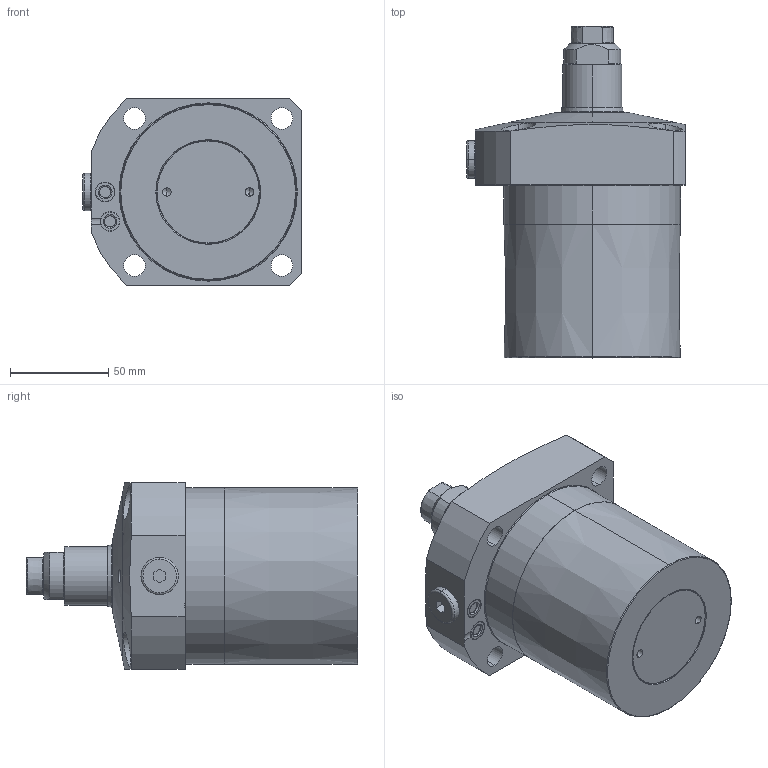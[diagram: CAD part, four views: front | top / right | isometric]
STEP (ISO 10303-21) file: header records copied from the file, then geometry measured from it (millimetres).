
FILE_DESCRIPTION(/* description */ (''),/* implementation_level */ '2;1');
FILE_NAME(/* name */ 'KFSS90.stp',/* time_stamp */ '2026-02-06T09:33:47+08:00',/* author */ (''),/* organization */ (''),/* preprocessor_version */ 'ST-DEVELOPER v16.7',/* originating_system */ 'SIEMENS PLM Software NX 12.0',/* authorisation */ '');
FILE_SCHEMA (('AUTOMOTIVE_DESIGN { 1 0 10303 214 3 1 1 1 }'));
Length unit declared in the file: millimetre
Products named in the file (8): XLC-M16_o-ring; XLC-M16_contactbolt; KFSS90-04; KFSS90-02; KFSS90-05; KFSS90-01; KFSS90-03; LC0903-Cx-E_step
Assembly tree (8 placements, depth 3):
  LC0903-Cx-E_step
    KFSS90-01
    KFSS90-03
      XLC-M16_contactbolt
      XLC-M16_o-ring
    KFSS90-05  x2
    KFSS90-02
    KFSS90-04
Bounding box: 111.5 x 169 x 95 mm (x, y, z)
Volume: 868181 mm3; surface area: 72356.6 mm2
Topology: 7 solids, 7 shells, 235 faces, 517 edges, 310 vertices
Faces by surface type: cylinder 74, torus 60, plane 52, cone 47, bspline 2
Entity records: 6757 total; most frequent: CARTESIAN_POINT 1444, DIRECTION 1180, ORIENTED_EDGE 966, AXIS2_PLACEMENT_3D 513, EDGE_CURVE 483, VERTEX_POINT 296, CIRCLE 283, EDGE_LOOP 259
